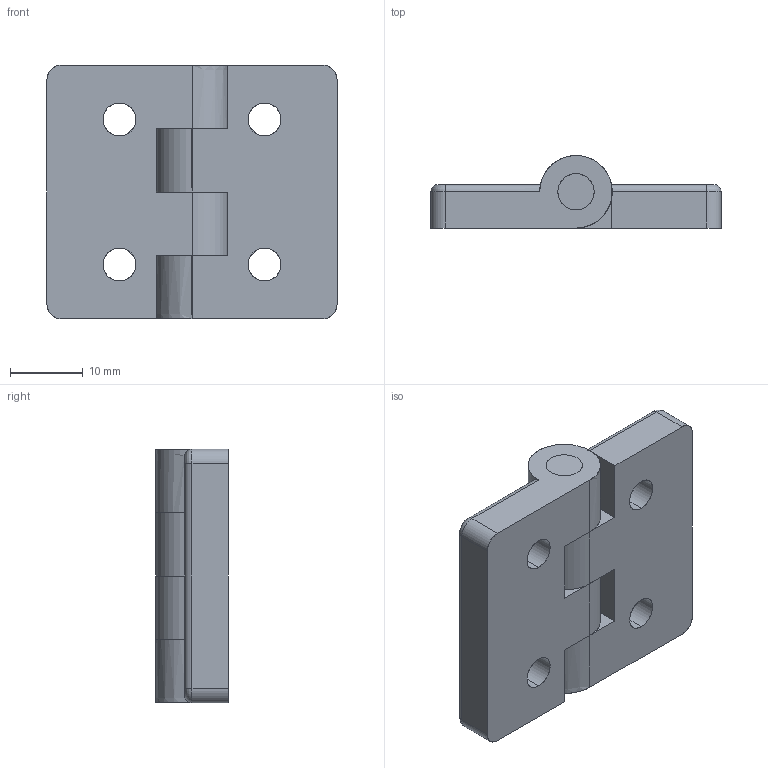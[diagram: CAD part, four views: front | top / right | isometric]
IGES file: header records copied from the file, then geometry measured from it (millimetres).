
Start section: SolidWorks IGES file using analytic representation for surfaces
Global section: file name: D:\LETROMEC CATALOGUE\Hinge\LIMA-H20X20-NEW\LIMA-H20X20-NEW.IGS; native system: SolidWorks 2013; preprocessor: SolidWorks 2013; author: User; date: 180315.204941; units: millimetre
Bounding box: 40 x 10 x 35 mm (x, y, z)
Surface area: 5797.5 mm2 (no closed solid volume)
Topology: 0 solids, 0 shells, 66 faces, 1198 edges, 1198 vertices
Faces by surface type: revolution 40, bspline 26
